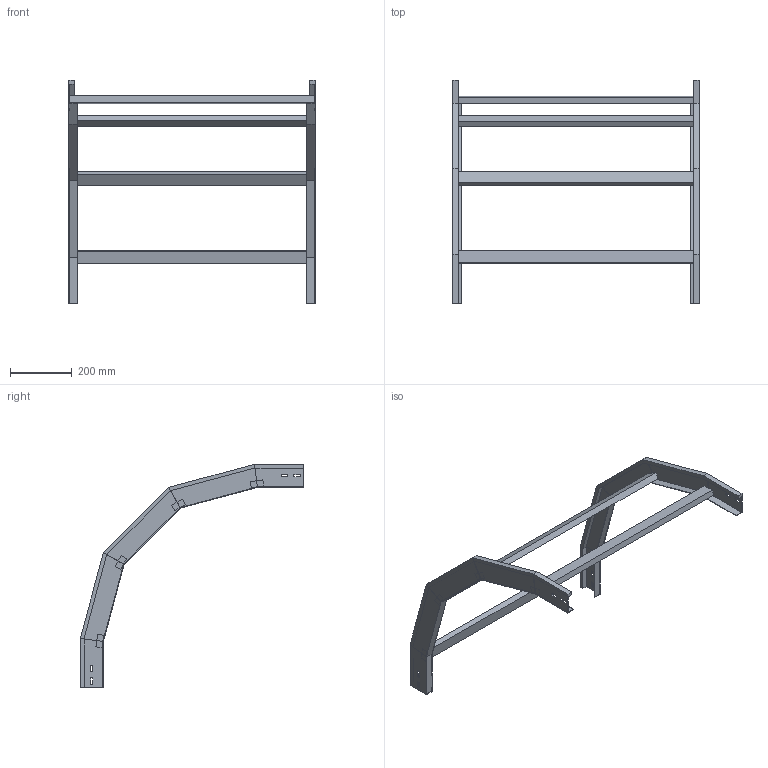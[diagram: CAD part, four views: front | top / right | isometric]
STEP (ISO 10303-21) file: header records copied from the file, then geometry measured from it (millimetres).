
FILE_DESCRIPTION (( 'STEP AP214' ), '1' );
FILE_NAME ('33B5C800.step', '2025-02-21T15:05:12', ( '' ), ( '' ), 'SwSTEP 2.0', 'SolidWorks 2023', '' );
FILE_SCHEMA (( 'AUTOMOTIVE_DESIGN' ));
Length unit declared in the file: millimetre
Products named in the file (3): TRAVERSINO_800; LONGH.DISCESA_90°_H75_R500; 33B5C800
Assembly tree (6 placements, depth 2):
  33B5C800
    LONGH.DISCESA_90°_H75_R500  x2
    TRAVERSINO_800  x4
Bounding box: 800 x 725.35 x 725.35 mm (x, y, z)
Volume: 3481437.3 mm3; surface area: 925800 mm2
Topology: 6 solids, 6 shells, 140 faces, 320 edges, 192 vertices
Faces by surface type: plane 140
Entity records: 1872 total; most frequent: CARTESIAN_POINT 309, ORIENTED_EDGE 296, DIRECTION 294, EDGE_CURVE 148, VECTOR 148, LINE 148, VERTEX_POINT 88, AXIS2_PLACEMENT_3D 73
